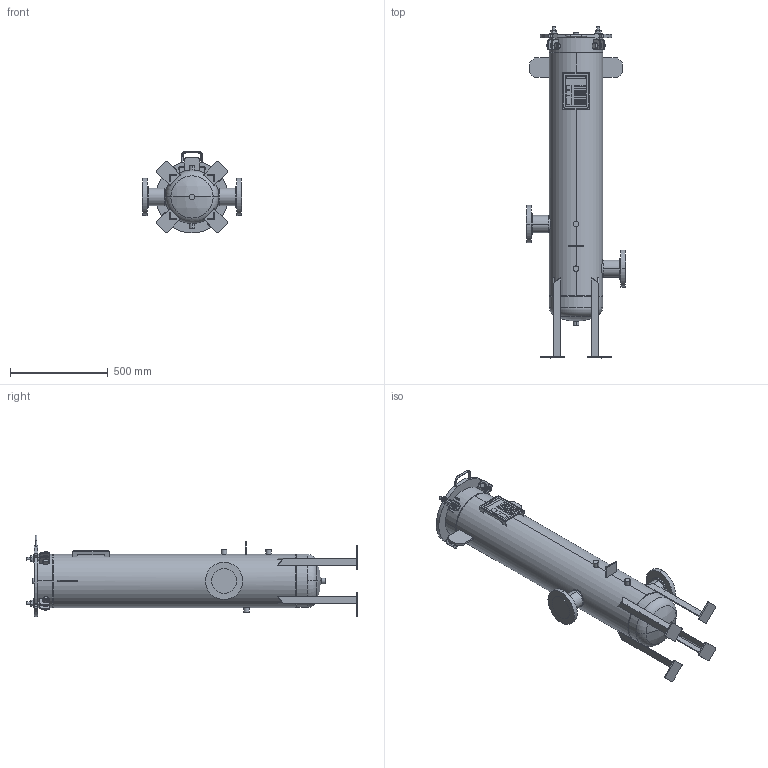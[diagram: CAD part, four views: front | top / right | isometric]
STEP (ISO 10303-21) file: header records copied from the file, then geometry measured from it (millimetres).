
FILE_DESCRIPTION (( 'STEP AP203' ), '1' );
FILE_NAME ('001001-01965.step', '2025-12-09T14:41:35', ( '' ), ( '' ), 'SwSTEP 2.0', 'SolidWorks 2023', '' );
FILE_SCHEMA (( 'CONFIG_CONTROL_DESIGN' ));
Length unit declared in the file: inch
Products named in the file (1): 001001-01965
Bounding box: 508 x 1700.21 x 418.99 mm (x, y, z)
Volume: 21079897.1 mm3; surface area: 3468460.6 mm2
Topology: 17 solids, 17 shells, 843 faces, 1969 edges, 1244 vertices
Faces by surface type: plane 360, cylinder 261, cone 168, torus 42, bspline 10, sphere 2
Entity records: 27166 total; most frequent: CARTESIAN_POINT 7774, DIRECTION 4121, ORIENTED_EDGE 3938, EDGE_CURVE 1969, AXIS2_PLACEMENT_3D 1627, VERTEX_POINT 1244, EDGE_LOOP 937, VECTOR 867
